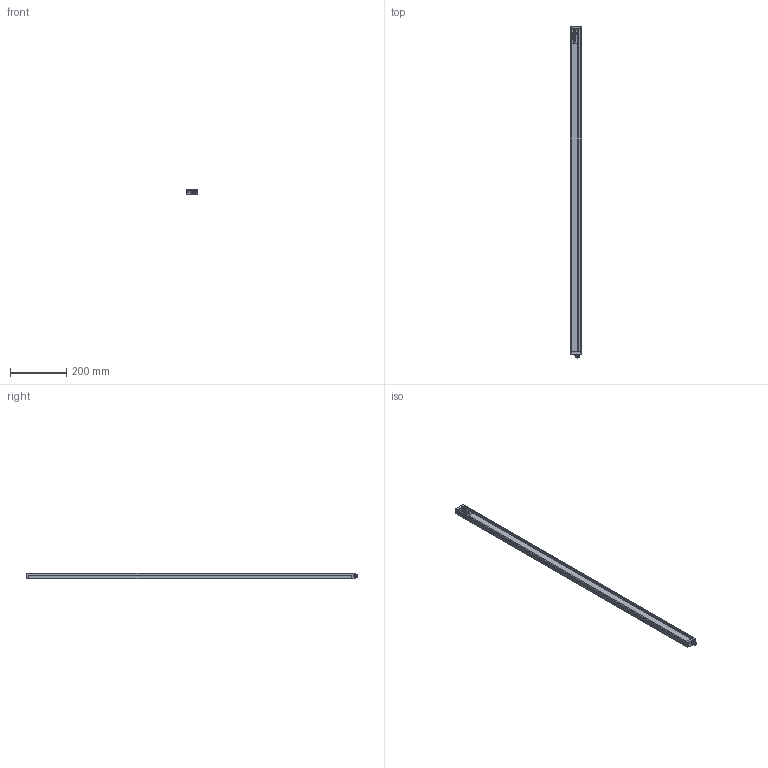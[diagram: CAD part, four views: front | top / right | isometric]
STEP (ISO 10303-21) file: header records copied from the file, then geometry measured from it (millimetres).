
FILE_DESCRIPTION(/* description */ (''),/* implementation_level */ '2;1');
FILE_NAME(/* name */ 'C:\Users\andre\SynologyDrive\Optoscan\Libreria Componenti\00 - Barriere\Polaris sorgente\Barriera Polaris RX\Polaris_1150_RX.stp',/* time_stamp */ '2021-06-04T11:51:57+02:00',/* author */ ('andre'),/* organization */ (''),/* preprocessor_version */ 'ST-DEVELOPER v18',/* originating_system */ 'Autodesk Inventor 2020',/* authorisation */ '');
FILE_SCHEMA (('AUTOMOTIVE_DESIGN { 1 0 10303 214 3 1 1 }'));
Length unit declared in the file: millimetre
Products named in the file (1): Polaris_1150_RX
Bounding box: 40.5 x 1185.3 x 20.75 mm (x, y, z)
Volume: 235616 mm3; surface area: 309969.9 mm2
Topology: 1 solids, 1 shells, 700 faces, 1926 edges, 1237 vertices
Faces by surface type: plane 319, cylinder 199, bspline 94, torus 70, sphere 10, cone 8
Full cylindrical faces by diameter (mm): 1 x8, 2.459 x4, 2.5 x4, 3 x4, 3.5 x4, 5.5 x4, 8 x1, 10.5 x2, 11.75 x9, 15.7 x1, 17.5 x1
Entity records: 28472 total; most frequent: CARTESIAN_POINT 10246, ORIENTED_EDGE 3826, DIRECTION 3447, EDGE_CURVE 1913, VERTEX_POINT 1237, AXIS2_PLACEMENT_3D 1211, LINE 1025, VECTOR 1025
